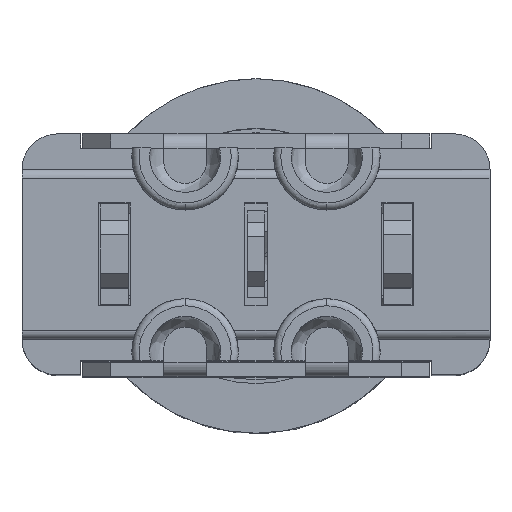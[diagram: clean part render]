
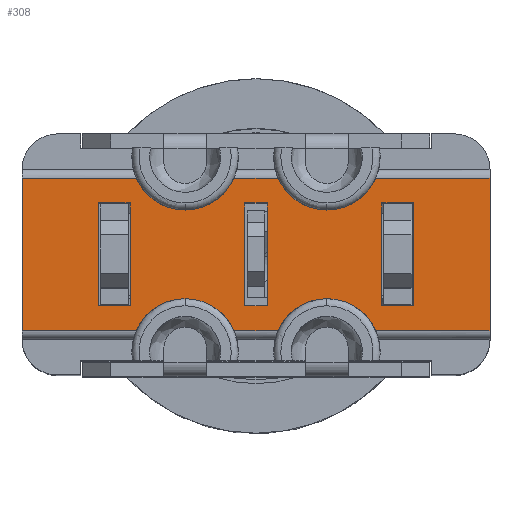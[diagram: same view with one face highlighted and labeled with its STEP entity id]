
A CAD part, top view. The second image highlights one B-rep face of the part: STEP entity #308.
In plain terms, the highlighted planar face has unit normal (0, 0, 1).
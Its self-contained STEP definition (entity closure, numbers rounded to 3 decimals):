
#308=ADVANCED_FACE('',(#1082,#1083,#1084,#1085),#1086,.T.);
#1082=FACE_OUTER_BOUND('',#4770,.T.);
#1083=FACE_BOUND('',#4771,.T.);
#1084=FACE_BOUND('',#4772,.T.);
#1085=FACE_BOUND('',#4773,.T.);
#1086=PLANE('',#4774);
#4770=EDGE_LOOP('',(#7802,#7803,#7804,#7805,#7806,#7807,#7808,#7809,#7810,#7811,#7812,#7813));
#4771=EDGE_LOOP('',(#7814,#7815,#7816,#7817));
#4772=EDGE_LOOP('',(#7818,#7819,#7820,#7821));
#4773=EDGE_LOOP('',(#7822,#7823,#7824,#7825));
#4774=AXIS2_PLACEMENT_3D('',#7826,#7827,#7828);
#7802=ORIENTED_EDGE('',*,*,#10936,.T.);
#7803=ORIENTED_EDGE('',*,*,#10937,.T.);
#7804=ORIENTED_EDGE('',*,*,#10938,.F.);
#7805=ORIENTED_EDGE('',*,*,#10939,.T.);
#7806=ORIENTED_EDGE('',*,*,#10940,.F.);
#7807=ORIENTED_EDGE('',*,*,#10941,.T.);
#7808=ORIENTED_EDGE('',*,*,#10942,.T.);
#7809=ORIENTED_EDGE('',*,*,#10943,.T.);
#7810=ORIENTED_EDGE('',*,*,#10134,.F.);
#7811=ORIENTED_EDGE('',*,*,#10944,.T.);
#7812=ORIENTED_EDGE('',*,*,#10121,.F.);
#7813=ORIENTED_EDGE('',*,*,#10945,.T.);
#7814=ORIENTED_EDGE('',*,*,#10946,.F.);
#7815=ORIENTED_EDGE('',*,*,#10947,.F.);
#7816=ORIENTED_EDGE('',*,*,#10948,.F.);
#7817=ORIENTED_EDGE('',*,*,#10949,.F.);
#7818=ORIENTED_EDGE('',*,*,#10950,.F.);
#7819=ORIENTED_EDGE('',*,*,#10951,.F.);
#7820=ORIENTED_EDGE('',*,*,#10952,.F.);
#7821=ORIENTED_EDGE('',*,*,#10953,.F.);
#7822=ORIENTED_EDGE('',*,*,#10935,.F.);
#7823=ORIENTED_EDGE('',*,*,#10954,.F.);
#7824=ORIENTED_EDGE('',*,*,#10955,.F.);
#7825=ORIENTED_EDGE('',*,*,#10925,.F.);
#7826=CARTESIAN_POINT('',(0.0,0.0,10.95));
#7827=DIRECTION('',(0.0,0.0,1.0));
#7828=DIRECTION('',(1.0,0.0,0.0));
#10121=EDGE_CURVE('',#11683,#11685,#11686,.T.);
#10134=EDGE_CURVE('',#11707,#11709,#11710,.T.);
#10925=EDGE_CURVE('',#13019,#13021,#13022,.T.);
#10935=EDGE_CURVE('',#13033,#13019,#13035,.T.);
#10936=EDGE_CURVE('',#13036,#13037,#13038,.T.);
#10937=EDGE_CURVE('',#13037,#13039,#13040,.T.);
#10938=EDGE_CURVE('',#13041,#13039,#13042,.T.);
#10939=EDGE_CURVE('',#13041,#13043,#13044,.T.);
#10940=EDGE_CURVE('',#13045,#13043,#13046,.T.);
#10941=EDGE_CURVE('',#13045,#13047,#13048,.T.);
#10942=EDGE_CURVE('',#13047,#13049,#13050,.T.);
#10943=EDGE_CURVE('',#13049,#11709,#13051,.T.);
#10944=EDGE_CURVE('',#11707,#11685,#13052,.T.);
#10945=EDGE_CURVE('',#11683,#13036,#13053,.T.);
#10946=EDGE_CURVE('',#13054,#13055,#13056,.T.);
#10947=EDGE_CURVE('',#13057,#13054,#13058,.T.);
#10948=EDGE_CURVE('',#13059,#13057,#13060,.T.);
#10949=EDGE_CURVE('',#13055,#13059,#13061,.T.);
#10950=EDGE_CURVE('',#13062,#13063,#13064,.T.);
#10951=EDGE_CURVE('',#13065,#13062,#13066,.T.);
#10952=EDGE_CURVE('',#13067,#13065,#13068,.T.);
#10953=EDGE_CURVE('',#13063,#13067,#13069,.T.);
#10954=EDGE_CURVE('',#13070,#13033,#13071,.T.);
#10955=EDGE_CURVE('',#13021,#13070,#13072,.T.);
#11683=VERTEX_POINT('',#14204);
#11685=VERTEX_POINT('',#14217);
#11686=CIRCLE('',#14218,1.5);
#11707=VERTEX_POINT('',#14255);
#11709=VERTEX_POINT('',#14268);
#11710=CIRCLE('',#14269,1.5);
#13019=VERTEX_POINT('',#19727);
#13021=VERTEX_POINT('',#19730);
#13022=LINE('',#19731,#19732);
#13033=VERTEX_POINT('',#19750);
#13035=LINE('',#19753,#19754);
#13036=VERTEX_POINT('',#19755);
#13037=VERTEX_POINT('',#19756);
#13038=LINE('',#19757,#19758);
#13039=VERTEX_POINT('',#19759);
#13040=LINE('',#19760,#19761);
#13041=VERTEX_POINT('',#19762);
#13042=CIRCLE('',#19763,1.5);
#13043=VERTEX_POINT('',#19764);
#13044=LINE('',#19765,#19766);
#13045=VERTEX_POINT('',#19767);
#13046=CIRCLE('',#19768,1.5);
#13047=VERTEX_POINT('',#19769);
#13048=LINE('',#19770,#19771);
#13049=VERTEX_POINT('',#19772);
#13050=LINE('',#19773,#19774);
#13051=LINE('',#19775,#19776);
#13052=LINE('',#19777,#19778);
#13053=LINE('',#19779,#19780);
#13054=VERTEX_POINT('',#19781);
#13055=VERTEX_POINT('',#19782);
#13056=LINE('',#19783,#19784);
#13057=VERTEX_POINT('',#19785);
#13058=LINE('',#19786,#19787);
#13059=VERTEX_POINT('',#19788);
#13060=LINE('',#19789,#19790);
#13061=LINE('',#19791,#19792);
#13062=VERTEX_POINT('',#19793);
#13063=VERTEX_POINT('',#19794);
#13064=LINE('',#19795,#19796);
#13065=VERTEX_POINT('',#19797);
#13066=LINE('',#19798,#19799);
#13067=VERTEX_POINT('',#19800);
#13068=LINE('',#19801,#19802);
#13069=LINE('',#19803,#19804);
#13070=VERTEX_POINT('',#19805);
#13071=LINE('',#19806,#19807);
#13072=LINE('',#19808,#19809);
#14204=CARTESIAN_POINT('',(3.225,-1.25,10.95));
#14217=CARTESIAN_POINT('',(5.975,-1.25,10.95));
#14218=AXIS2_PLACEMENT_3D('',#21609,#21610,#21611);
#14255=CARTESIAN_POINT('',(7.225,-1.25,10.95));
#14268=CARTESIAN_POINT('',(9.975,-1.25,10.95));
#14269=AXIS2_PLACEMENT_3D('',#21632,#21633,#21634);
#19727=CARTESIAN_POINT('',(10.15,-4.85,10.95));
#19730=CARTESIAN_POINT('',(11.05,-4.85,10.95));
#19731=CARTESIAN_POINT('',(10.15,-4.85,10.95));
#19732=VECTOR('',#22576,0.9);
#19750=CARTESIAN_POINT('',(10.15,-1.95,10.95));
#19753=CARTESIAN_POINT('',(10.15,-1.95,10.95));
#19754=VECTOR('',#22588,2.9);
#19755=CARTESIAN_POINT('',(0.0,-1.25,10.95));
#19756=CARTESIAN_POINT('',(0.0,-5.55,10.95));
#19757=CARTESIAN_POINT('',(0.0,-1.25,10.95));
#19758=VECTOR('',#22589,4.3);
#19759=CARTESIAN_POINT('',(3.225,-5.55,10.95));
#19760=CARTESIAN_POINT('',(0.0,-5.55,10.95));
#19761=VECTOR('',#22590,3.225);
#19762=CARTESIAN_POINT('',(5.975,-5.55,10.95));
#19763=AXIS2_PLACEMENT_3D('',#22591,#22592,#22593);
#19764=CARTESIAN_POINT('',(7.225,-5.55,10.95));
#19765=CARTESIAN_POINT('',(5.975,-5.55,10.95));
#19766=VECTOR('',#22594,1.25);
#19767=CARTESIAN_POINT('',(9.975,-5.55,10.95));
#19768=AXIS2_PLACEMENT_3D('',#22595,#22596,#22597);
#19769=CARTESIAN_POINT('',(13.2,-5.55,10.95));
#19770=CARTESIAN_POINT('',(9.975,-5.55,10.95));
#19771=VECTOR('',#22598,3.225);
#19772=CARTESIAN_POINT('',(13.2,-1.25,10.95));
#19773=CARTESIAN_POINT('',(13.2,-5.55,10.95));
#19774=VECTOR('',#22599,4.3);
#19775=CARTESIAN_POINT('',(13.2,-1.25,10.95));
#19776=VECTOR('',#22600,3.225);
#19777=CARTESIAN_POINT('',(7.225,-1.25,10.95));
#19778=VECTOR('',#22601,1.25);
#19779=CARTESIAN_POINT('',(3.225,-1.25,10.95));
#19780=VECTOR('',#22602,3.225);
#19781=CARTESIAN_POINT('',(2.15,-1.95,10.95));
#19782=CARTESIAN_POINT('',(2.15,-4.85,10.95));
#19783=CARTESIAN_POINT('',(2.15,-1.95,10.95));
#19784=VECTOR('',#22603,2.9);
#19785=CARTESIAN_POINT('',(3.05,-1.95,10.95));
#19786=CARTESIAN_POINT('',(3.05,-1.95,10.95));
#19787=VECTOR('',#22604,0.9);
#19788=CARTESIAN_POINT('',(3.05,-4.85,10.95));
#19789=CARTESIAN_POINT('',(3.05,-4.85,10.95));
#19790=VECTOR('',#22605,2.9);
#19791=CARTESIAN_POINT('',(2.15,-4.85,10.95));
#19792=VECTOR('',#22606,0.9);
#19793=CARTESIAN_POINT('',(6.285,-1.95,10.95));
#19794=CARTESIAN_POINT('',(6.285,-4.85,10.95));
#19795=CARTESIAN_POINT('',(6.285,-1.95,10.95));
#19796=VECTOR('',#22607,2.9);
#19797=CARTESIAN_POINT('',(6.915,-1.95,10.95));
#19798=CARTESIAN_POINT('',(6.915,-1.95,10.95));
#19799=VECTOR('',#22608,0.63);
#19800=CARTESIAN_POINT('',(6.915,-4.85,10.95));
#19801=CARTESIAN_POINT('',(6.915,-4.85,10.95));
#19802=VECTOR('',#22609,2.9);
#19803=CARTESIAN_POINT('',(6.285,-4.85,10.95));
#19804=VECTOR('',#22610,0.63);
#19805=CARTESIAN_POINT('',(11.05,-1.95,10.95));
#19806=CARTESIAN_POINT('',(11.05,-1.95,10.95));
#19807=VECTOR('',#22611,0.9);
#19808=CARTESIAN_POINT('',(11.05,-4.85,10.95));
#19809=VECTOR('',#22612,2.9);
#21609=CARTESIAN_POINT('',(4.6,-0.65,10.95));
#21610=DIRECTION('',(0.0,0.0,1.0));
#21611=DIRECTION('',(-0.917,-0.4,0.0));
#21632=CARTESIAN_POINT('',(8.6,-0.65,10.95));
#21633=DIRECTION('',(0.0,0.0,1.0));
#21634=DIRECTION('',(-0.917,-0.4,0.0));
#22576=DIRECTION('',(1.0,0.0,0.0));
#22588=DIRECTION('',(0.0,-1.0,0.0));
#22589=DIRECTION('',(0.0,-1.0,0.0));
#22590=DIRECTION('',(1.0,0.0,0.0));
#22591=CARTESIAN_POINT('',(4.6,-6.15,10.95));
#22592=DIRECTION('',(0.0,-0.0,1.0));
#22593=DIRECTION('',(0.917,0.4,0.0));
#22594=DIRECTION('',(1.0,0.0,0.0));
#22595=CARTESIAN_POINT('',(8.6,-6.15,10.95));
#22596=DIRECTION('',(0.0,-0.0,1.0));
#22597=DIRECTION('',(0.917,0.4,0.0));
#22598=DIRECTION('',(1.0,0.0,0.0));
#22599=DIRECTION('',(0.0,1.0,0.0));
#22600=DIRECTION('',(-1.0,0.0,0.0));
#22601=DIRECTION('',(-1.0,0.0,0.0));
#22602=DIRECTION('',(-1.0,0.0,0.0));
#22603=DIRECTION('',(0.0,-1.0,0.0));
#22604=DIRECTION('',(-1.0,0.0,0.0));
#22605=DIRECTION('',(0.0,1.0,0.0));
#22606=DIRECTION('',(1.0,0.0,0.0));
#22607=DIRECTION('',(0.0,-1.0,0.0));
#22608=DIRECTION('',(-1.0,0.0,0.0));
#22609=DIRECTION('',(0.0,1.0,0.0));
#22610=DIRECTION('',(1.0,0.0,0.0));
#22611=DIRECTION('',(-1.0,0.0,0.0));
#22612=DIRECTION('',(0.0,1.0,0.0));
